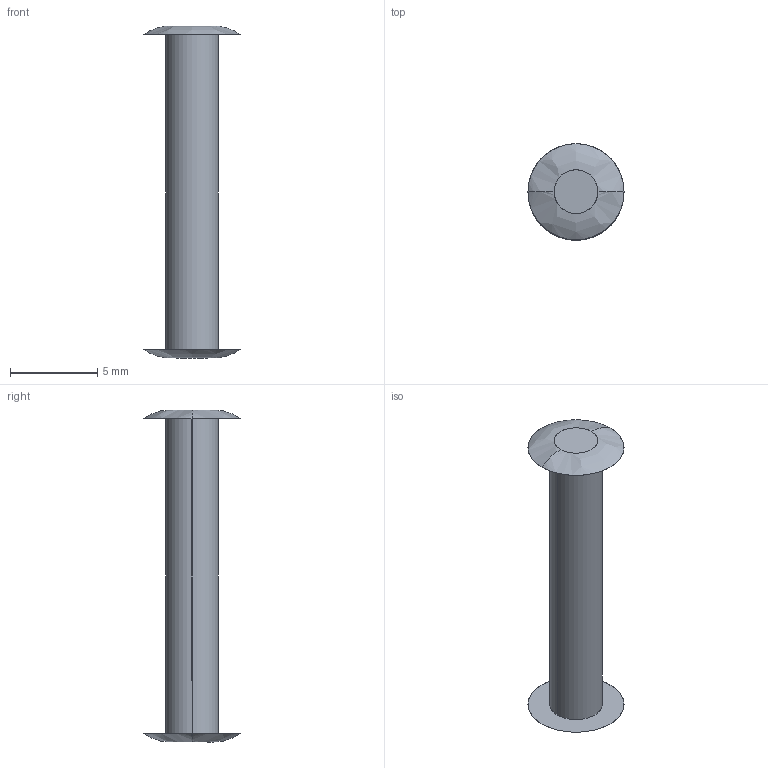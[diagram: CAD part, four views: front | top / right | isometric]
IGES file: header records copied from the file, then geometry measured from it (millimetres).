
Start section: SolidWorks IGES FILE using analytic representation for surfaces
Global section: file name: C:\Documents and Settings\brechard\Bureau\GE 61\60.300.03.IGS; native system: SolidWorks 2001Plus by SolidWorks Corporation; preprocessor: Version 5.3; author: brechard; date: 050126.103306; units: millimetre
Bounding box: 5.5 x 5.5 x 19 mm (x, y, z)
Surface area: 253.8 mm2 (no closed solid volume)
Topology: 0 solids, 0 shells, 10 faces, 216 edges, 216 vertices
Faces by surface type: bspline 8, revolution 2
